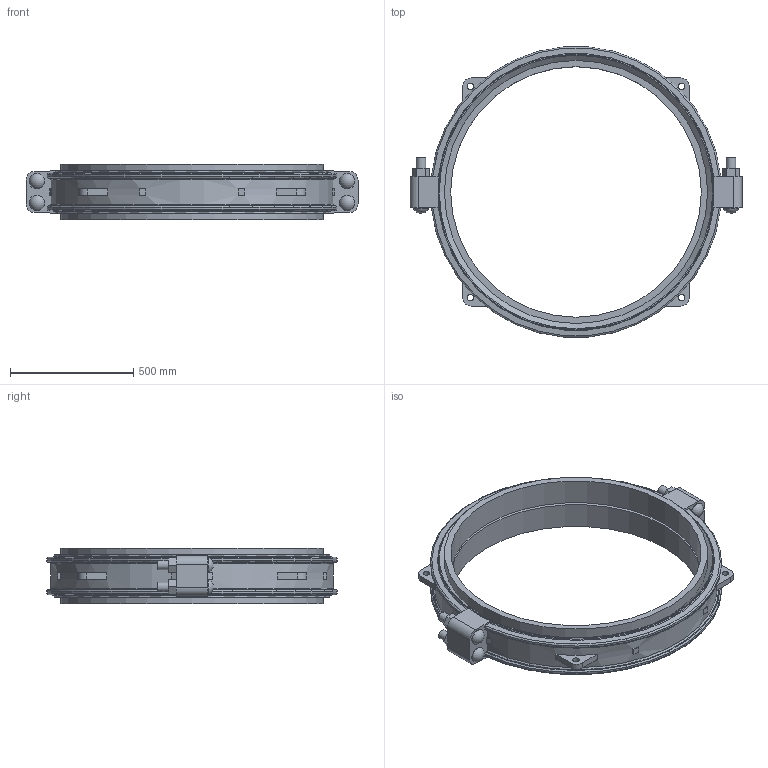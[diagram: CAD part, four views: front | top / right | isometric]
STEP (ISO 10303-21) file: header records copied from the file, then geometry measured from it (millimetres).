
FILE_DESCRIPTION(/* description */ ('VIC COUPLING FLEX STYLE W77 AGS VIC-RING ','CAx-IF Rec.Pracs.---Representation and Presentation of Product Manufacturing Information (PMI)---4.0---2014-10-13'),/* implementation_level */ '2;1');
FILE_NAME(/* name */ 'C:\Users\Vjadhav\AppData\Roaming\Autodesk\ApplicationPlugins\Victaulic.Temp\A52\Victaulic_Vic-Ring_Coupling Flexible_Style W77 (AGR)_42 (1050).stp',/* time_stamp */ '2021-12-20T11:06:04+06:00',/* author */ ('Vjadhav'),/* organization */ ('Victaulic'),/* preprocessor_version */ 'ST-DEVELOPER v17.2',/* originating_system */ 'Autodesk Inventor 2019',/* authorisation */ '');
FILE_SCHEMA (('AP242_MANAGED_MODEL_BASED_3D_ENGINEERING_MIM_LF { 1 0 10303 442 1 1 4 }'));
Length unit declared in the file: inch
Products named in the file (3): W77 VR-42.0; W77 VR-42.0_1; W77 VR-42.0_2
Assembly tree (3 placements, depth 2):
  W77 VR-42.0
    W77 VR-42.0_1
    W77 VR-42.0_2  x2
Bounding box: 1346.2 x 1176.73 x 226.06 mm (x, y, z)
Volume: 48110691.7 mm3; surface area: 3708893.4 mm2
Topology: 3 solids, 7 shells, 187 faces, 491 edges, 340 vertices
Faces by surface type: plane 110, cylinder 47, torus 16, cone 10, sphere 4
Full cylindrical faces by diameter (mm): 25.4 x4, 38.1 x8, 63.5 x4, 1016 x2, 1047.75 x1, 1066.8 x4, 1117.6 x2
Entity records: 6491 total; most frequent: CARTESIAN_POINT 1514, DIRECTION 987, ORIENTED_EDGE 962, EDGE_CURVE 481, AXIS2_PLACEMENT_3D 365, VERTEX_POINT 332, LINE 257, VECTOR 257
